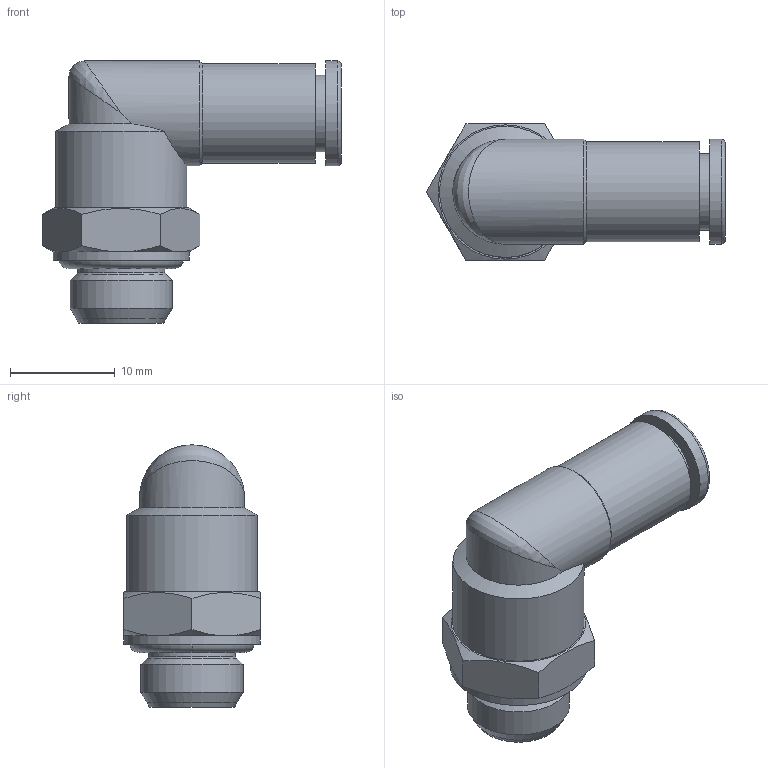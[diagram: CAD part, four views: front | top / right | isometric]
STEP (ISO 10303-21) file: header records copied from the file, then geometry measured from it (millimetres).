
FILE_DESCRIPTION(('Bauteilbeschreibung','HiCAD-Model','HiCAD-STEP-TRANSLATION','Bauteilbeschreibung'),'2;1');
FILE_NAME('B:/ABGLEICH/ZEICHNUNGEN/STEP FÜR INTERNET/STEP/IPSO 022/202228_IPSO_022_5_1-8.STP','2012-02-06T11:46:10+00:00',('Konstrukteur'),('Konstrukteur Firma GmbH'),' HiCAD neXt 2008, Step 3.1.1401.2J ','HiCAD neXt 2008','confidential');
FILE_SCHEMA(('AUTOMOTIVE_DESIGN { 1 2 10303 214 0 1 1 1 }'));
Length unit declared in the file: millimetre
Products named in the file (7): A02228_IPSO_022_5_1_8; OR 7_2X1_9; DR5_1; A14602_N2_GEW___1_8_1_8; A146020N20GEW0001080108; G 1_8; R202228_N2
Assembly tree (6 placements, depth 3):
  A02228_IPSO_022_5_1_8
    OR 7_2X1_9
    DR5_1
    A14602_N2_GEW___1_8_1_8
    A146020N20GEW0001080108
      G 1_8
    R202228_N2
Bounding box: 28.51 x 13 x 25 mm (x, y, z)
Volume: 2546 mm3; surface area: 3680.3 mm2
Topology: 5 solids, 5 shells, 78 faces, 166 edges, 99 vertices
Faces by surface type: cone 24, cylinder 23, plane 20, torus 10, bspline 1
Full cylindrical faces by diameter (mm): 3.501 x1, 5.1 x1, 5.2 x1, 5.5 x2, 6 x2, 7.3 x1, 7.5 x1, 8.3 x1, 8.566 x2, 9 x2, 9.5 x1, 9.728 x1, 10 x2, 10.1 x2, 12.5 x1, 13 x1
Entity records: 3478 total; most frequent: CARTESIAN_POINT 1444, DIRECTION 332, ORIENTED_EDGE 208, AXIS2_PLACEMENT_3D 163, EDGE_LOOP 137, EDGE_CURVE 104, COLOUR_RGB 95, PRESENTATION_STYLE_ASSIGNMENT 95
